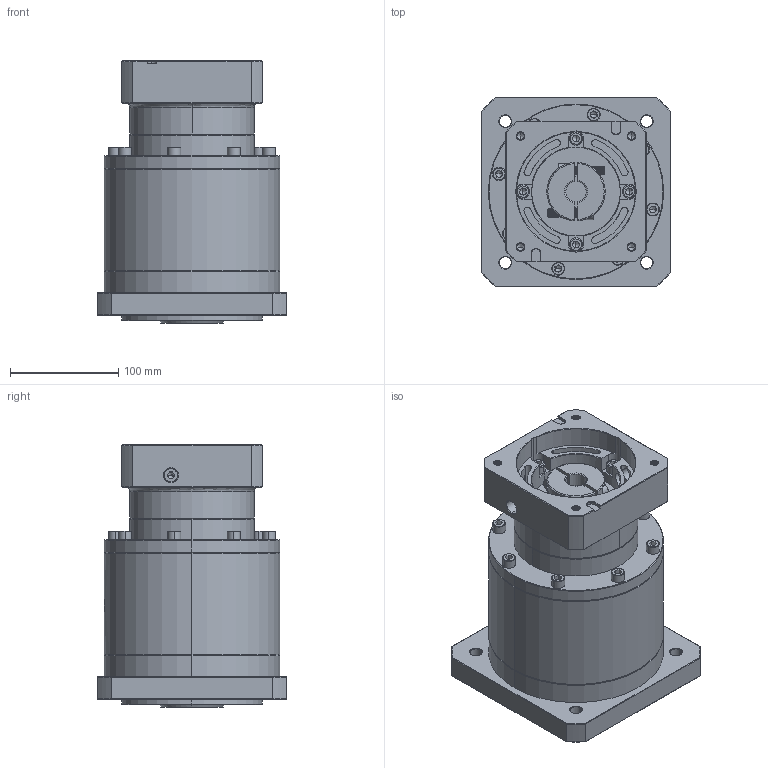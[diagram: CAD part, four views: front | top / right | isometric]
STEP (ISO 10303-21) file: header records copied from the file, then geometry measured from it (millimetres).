
FILE_DESCRIPTION (( 'STEP AP214' ), '1' );
FILE_NAME ('ZF160A-K35-L3-P2-19-110-145-M8.step', '2023-09-03T07:58:44', ( '' ), ( '' ), 'SwSTEP 2.0', 'SolidWorks 2016', '' );
FILE_SCHEMA (( 'AUTOMOTIVE_DESIGN' ));
Length unit declared in the file: millimetre
Products named in the file (1): ZF160A-K35-L3-P2-19-110-145-M8
Bounding box: 175 x 175 x 242.2 mm (x, y, z)
Volume: 4047197.8 mm3; surface area: 291922 mm2
Topology: 6 solids, 6 shells, 2424 faces, 6421 edges, 4117 vertices
Faces by surface type: plane 1138, cylinder 477, bspline 400, cone 354, torus 55
Entity records: 128552 total; most frequent: CARTESIAN_POINT 46803, ORIENTED_EDGE 12738, DIRECTION 9744, EDGE_CURVE 6369, VERTEX_POINT 4117, LINE 3396, VECTOR 3396, AXIS2_PLACEMENT_3D 3174
